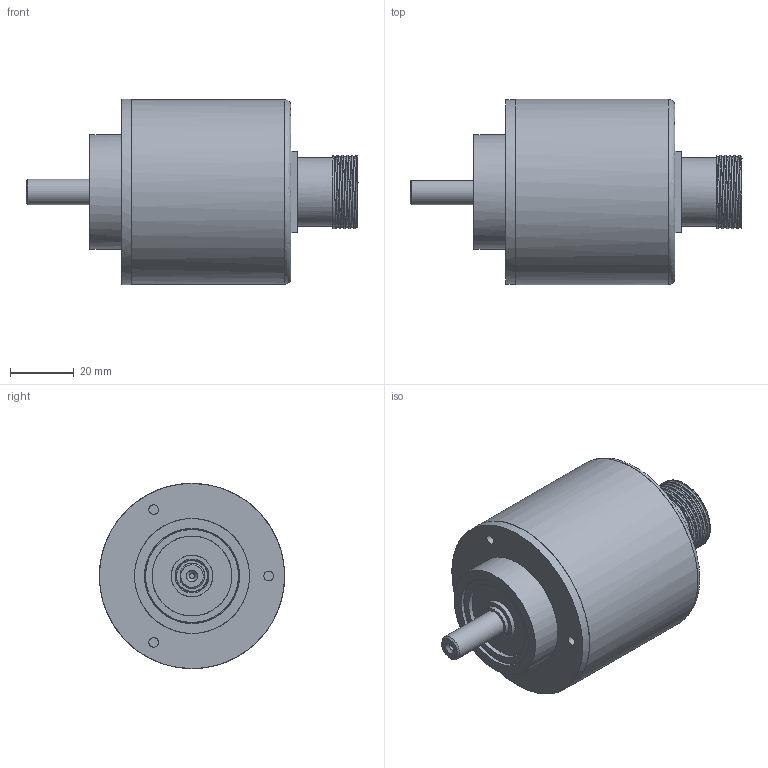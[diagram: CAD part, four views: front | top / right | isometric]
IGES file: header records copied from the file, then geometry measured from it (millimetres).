
Global section: file name: H:\lem\3DCAD_EI 1058_S08x20C_M23A.igs; native system: NX V11.0; preprocessor: SIEMENS PLM Software NX 11.0; date: 20200716.115735; units: millimetre
Bounding box: 104 x 58 x 58 mm (x, y, z)
Surface area: 22101 mm2 (no closed solid volume)
Topology: 0 solids, 0 shells, 96 faces, 951 edges, 940 vertices
Faces by surface type: bspline 96
